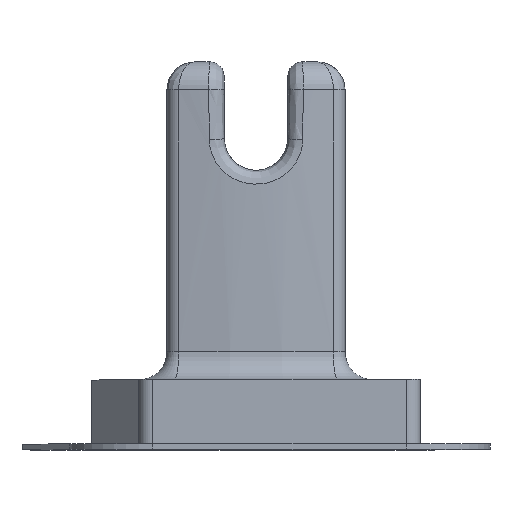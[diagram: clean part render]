
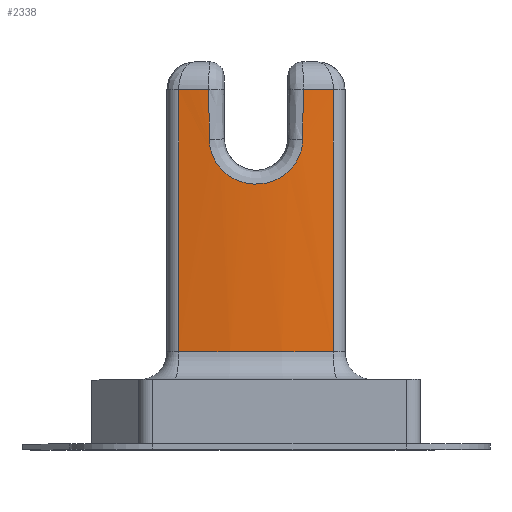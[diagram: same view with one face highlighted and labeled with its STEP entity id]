
A CAD part, top view. The second image highlights one B-rep face of the part: STEP entity #2338.
In plain terms, the highlighted cylindrical face has radius 34.167 mm (diameter 68.334 mm), a partial arc.
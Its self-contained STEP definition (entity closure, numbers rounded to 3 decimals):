
#103=CARTESIAN_POINT('',(3.38,3.5,3.332));
#104=CARTESIAN_POINT('',(3.369,2.324,3.333));
#105=CARTESIAN_POINT('',(3.358,1.148,3.335));
#106=CARTESIAN_POINT('',(3.348,-0.028,3.336));
#108=CARTESIAN_POINT('',(0.,3.5,-30.667));
#109=DIRECTION('',(0.,1.,0.));
#110=DIRECTION('',(0.099,0.,0.995));
#111=AXIS2_PLACEMENT_3D('',#108,#109,#110);
#113=DIRECTION('',(0.,-1.,0.));
#114=VECTOR('',#113,18.75);
#115=CARTESIAN_POINT('',(5.537,3.5,3.048));
#116=LINE('',#115,#114);
#117=CARTESIAN_POINT('',(0.,-15.25,-30.667));
#118=DIRECTION('',(0.,-1.,0.));
#119=DIRECTION('',(0.162,0.,0.987));
#120=AXIS2_PLACEMENT_3D('',#117,#118,#119);
#122=DIRECTION('',(0.,-1.,0.));
#123=VECTOR('',#122,18.75);
#124=CARTESIAN_POINT('',(-5.537,3.5,3.048));
#125=LINE('',#124,#123);
#126=CARTESIAN_POINT('',(0.,3.5,-30.667));
#127=DIRECTION('',(0.,1.,0.));
#128=DIRECTION('',(-0.162,0.,0.987));
#129=AXIS2_PLACEMENT_3D('',#126,#127,#128);
#131=CARTESIAN_POINT('',(-3.348,-0.028,
3.336));
#132=CARTESIAN_POINT('',(-3.358,1.148,3.335));
#133=CARTESIAN_POINT('',(-3.369,2.324,3.333));
#134=CARTESIAN_POINT('',(-3.38,3.5,3.332));
#136=CARTESIAN_POINT('',(3.348,-0.028,3.336));
#137=CARTESIAN_POINT('',(3.347,-0.156,3.336));
#138=CARTESIAN_POINT('',(3.329,-0.409,3.337));
#139=CARTESIAN_POINT('',(3.256,-0.787,3.345));
#140=CARTESIAN_POINT('',(3.137,-1.157,3.356));
#141=CARTESIAN_POINT('',(2.973,-1.51,3.371));
#142=CARTESIAN_POINT('',(2.767,-1.843,3.388));
#143=CARTESIAN_POINT('',(2.521,-2.151,3.407));
#144=CARTESIAN_POINT('',(2.235,-2.43,3.427));
#145=CARTESIAN_POINT('',(1.917,-2.674,3.447));
#146=CARTESIAN_POINT('',(1.57,-2.88,3.465));
#147=CARTESIAN_POINT('',(1.199,-3.043,3.48));
#148=CARTESIAN_POINT('',(0.809,-3.162,3.491));
#149=CARTESIAN_POINT('',(0.407,-3.234,3.498));
#150=CARTESIAN_POINT('',(-0.001,-3.258,
3.501));
#151=CARTESIAN_POINT('',(-0.409,-3.234,
3.498));
#152=CARTESIAN_POINT('',(-0.81,-3.162,
3.491));
#153=CARTESIAN_POINT('',(-1.198,-3.043,3.48));
#154=CARTESIAN_POINT('',(-1.569,-2.88,3.465));
#155=CARTESIAN_POINT('',(-1.916,-2.675,3.447));
#156=CARTESIAN_POINT('',(-2.233,-2.432,3.427));
#157=CARTESIAN_POINT('',(-2.516,-2.155,3.408));
#158=CARTESIAN_POINT('',(-2.762,-1.85,3.388));
#159=CARTESIAN_POINT('',(-2.969,-1.519,3.371));
#160=CARTESIAN_POINT('',(-3.133,-1.167,3.356));
#161=CARTESIAN_POINT('',(-3.253,-0.8,
3.345));
#162=CARTESIAN_POINT('',(-3.328,-0.416,
3.338));
#163=CARTESIAN_POINT('',(-3.347,-0.159,
3.336));
#164=CARTESIAN_POINT('',(-3.348,-0.028,
3.336));
#1782=VERTEX_POINT('',#103);
#1783=VERTEX_POINT('',#106);
#1786=VERTEX_POINT('',#164);
#1788=VERTEX_POINT('',#134);
#1798=CARTESIAN_POINT('',(-5.537,3.5,3.048));
#1799=VERTEX_POINT('',#1798);
#1802=CARTESIAN_POINT('',(5.537,3.5,3.048));
#1803=VERTEX_POINT('',#1802);
#1808=CARTESIAN_POINT('',(-5.537,-15.25,3.048));
#1809=VERTEX_POINT('',#1808);
#1810=CARTESIAN_POINT('',(5.537,-15.25,3.048));
#1811=VERTEX_POINT('',#1810);
#2316=CARTESIAN_POINT('',(0.,-22.25,-30.667));
#2317=DIRECTION('',(0.,1.,0.));
#2318=DIRECTION('',(0.,0.,-1.));
#2319=AXIS2_PLACEMENT_3D('',#2316,#2317,#2318);
#2320=CYLINDRICAL_SURFACE('',#2319,34.167);
#2321=ORIENTED_EDGE('',*,*,#2307,.F.);
#2323=ORIENTED_EDGE('',*,*,#2322,.T.);
#2325=ORIENTED_EDGE('',*,*,#2324,.T.);
#2327=ORIENTED_EDGE('',*,*,#2326,.T.);
#2329=ORIENTED_EDGE('',*,*,#2328,.F.);
#2331=ORIENTED_EDGE('',*,*,#2330,.T.);
#2333=ORIENTED_EDGE('',*,*,#2332,.F.);
#2335=ORIENTED_EDGE('',*,*,#2334,.F.);
#2336=EDGE_LOOP('',(#2321,#2323,#2325,#2327,#2329,#2331,#2333,#2335));
#2337=FACE_OUTER_BOUND('',#2336,.F.);
#2338=ADVANCED_FACE('',(#2337),#2320,.T.);
#107=B_SPLINE_CURVE_WITH_KNOTS('',3,(#103,#104,#105,#106),.UNSPECIFIED.,.F.,.F.,
(4,4),(0.,1.),.UNSPECIFIED.);
#112=CIRCLE('',#111,34.167);
#121=CIRCLE('',#120,34.167);
#130=CIRCLE('',#129,34.167);
#135=B_SPLINE_CURVE_WITH_KNOTS('',3,(#131,#132,#133,#134),.UNSPECIFIED.,.F.,.F.,
(4,4),(0.,1.),.UNSPECIFIED.);
#165=B_SPLINE_CURVE_WITH_KNOTS('',3,(#136,#137,#138,#139,#140,#141,#142,#143,
#144,#145,#146,#147,#148,#149,#150,#151,#152,#153,#154,#155,#156,#157,#158,#159,
#160,#161,#162,#163,#164),.UNSPECIFIED.,.F.,.F.,(4,1,1,1,1,1,1,1,1,1,1,1,1,1,1,
1,1,1,1,1,1,1,1,1,1,1,4),(0.,0.038,0.077,
0.115,0.154,0.192,0.231,
0.269,0.308,0.346,0.385,
0.423,0.462,0.5,0.538,0.577,
0.615,0.654,0.692,0.731,
0.769,0.808,0.846,0.885,
0.923,0.962,1.),.UNSPECIFIED.);
#2307=EDGE_CURVE('',#1782,#1783,#107,.T.);
#2322=EDGE_CURVE('',#1782,#1803,#112,.T.);
#2324=EDGE_CURVE('',#1803,#1811,#116,.T.);
#2326=EDGE_CURVE('',#1811,#1809,#121,.T.);
#2328=EDGE_CURVE('',#1799,#1809,#125,.T.);
#2330=EDGE_CURVE('',#1799,#1788,#130,.T.);
#2332=EDGE_CURVE('',#1786,#1788,#135,.T.);
#2334=EDGE_CURVE('',#1783,#1786,#165,.T.);
